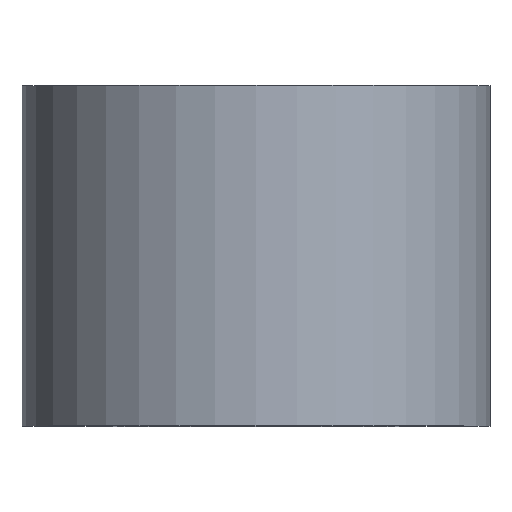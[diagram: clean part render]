
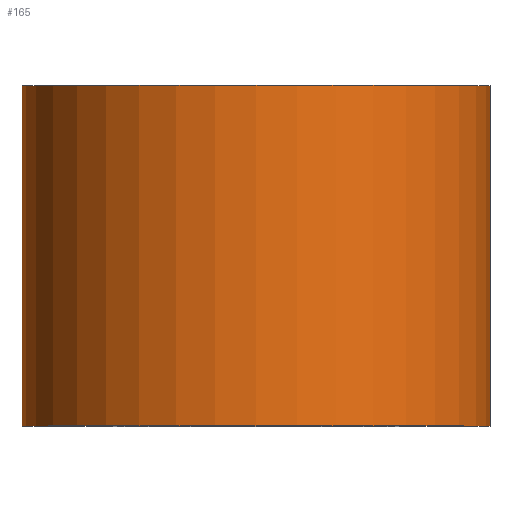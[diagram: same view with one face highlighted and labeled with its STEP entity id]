
A CAD part, top view. The second image highlights one B-rep face of the part: STEP entity #165.
In plain terms, the highlighted cylindrical face has radius 11 mm (diameter 22 mm), a partial arc.
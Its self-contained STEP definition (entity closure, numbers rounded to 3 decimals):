
#5 = CARTESIAN_POINT ( 'NONE',  ( 11., 0., 0. ) ) ;
#10 = EDGE_CURVE ( 'NONE', #248, #296, #23, .T. ) ;
#12 = DIRECTION ( 'NONE',  ( -1., 0., 0. ) ) ;
#20 = VERTEX_POINT ( 'NONE', #143 ) ;
#23 = LINE ( 'NONE', #149, #132 ) ;
#28 = AXIS2_PLACEMENT_3D ( 'NONE', #151, #126, #204 ) ;
#29 = EDGE_LOOP ( 'NONE', ( #228, #34, #161, #32 ) ) ;
#31 = EDGE_CURVE ( 'NONE', #122, #248, #80, .T. ) ;
#32 = ORIENTED_EDGE ( 'NONE', *, *, #202, .F. ) ;
#34 = ORIENTED_EDGE ( 'NONE', *, *, #10, .T. ) ;
#42 = VECTOR ( 'NONE', #148, 1000. ) ;
#43 = AXIS2_PLACEMENT_3D ( 'NONE', #123, #168, #189 ) ;
#50 = LINE ( 'NONE', #240, #42 ) ;
#70 = CARTESIAN_POINT ( 'NONE',  ( 11., 16., 0. ) ) ;
#80 = CIRCLE ( 'NONE', #43, 11. ) ;
#97 = CARTESIAN_POINT ( 'NONE',  ( 0., 0., 0. ) ) ;
#105 = CIRCLE ( 'NONE', #28, 11. ) ;
#122 = VERTEX_POINT ( 'NONE', #219 ) ;
#123 = CARTESIAN_POINT ( 'NONE',  ( 0., 0., 0. ) ) ;
#126 = DIRECTION ( 'NONE',  ( 0., 1., 0. ) ) ;
#132 = VECTOR ( 'NONE', #146, 1000. ) ;
#143 = CARTESIAN_POINT ( 'NONE',  ( -11., 16., 0. ) ) ;
#146 = DIRECTION ( 'NONE',  ( 0., 1., 0. ) ) ;
#148 = DIRECTION ( 'NONE',  ( 0., 1., 0. ) ) ;
#149 = CARTESIAN_POINT ( 'NONE',  ( 11., 0., 0. ) ) ;
#151 = CARTESIAN_POINT ( 'NONE',  ( 0., 16., 0. ) ) ;
#161 = ORIENTED_EDGE ( 'NONE', *, *, #290, .F. ) ;
#165 = ADVANCED_FACE ( 'NONE', ( #279 ), #215, .T. ) ;
#168 = DIRECTION ( 'NONE',  ( 0., 1., 0. ) ) ;
#187 = AXIS2_PLACEMENT_3D ( 'NONE', #97, #264, #12 ) ;
#189 = DIRECTION ( 'NONE',  ( -1., 0., 0. ) ) ;
#202 = EDGE_CURVE ( 'NONE', #122, #20, #50, .T. ) ;
#204 = DIRECTION ( 'NONE',  ( -1., 0., 0. ) ) ;
#215 = CYLINDRICAL_SURFACE ( 'NONE', #187, 11. ) ;
#219 = CARTESIAN_POINT ( 'NONE',  ( -11., 0., 0. ) ) ;
#228 = ORIENTED_EDGE ( 'NONE', *, *, #31, .T. ) ;
#240 = CARTESIAN_POINT ( 'NONE',  ( -11., 0., 0. ) ) ;
#248 = VERTEX_POINT ( 'NONE', #5 ) ;
#264 = DIRECTION ( 'NONE',  ( 0., 1., 0. ) ) ;
#279 = FACE_OUTER_BOUND ( 'NONE', #29, .T. ) ;
#290 = EDGE_CURVE ( 'NONE', #20, #296, #105, .T. ) ;
#296 = VERTEX_POINT ( 'NONE', #70 ) ;
